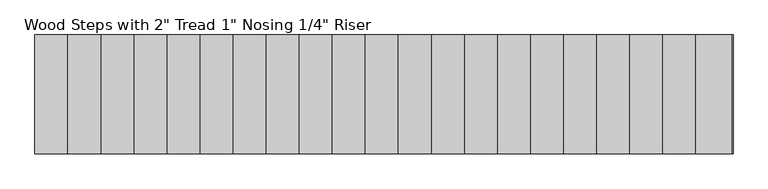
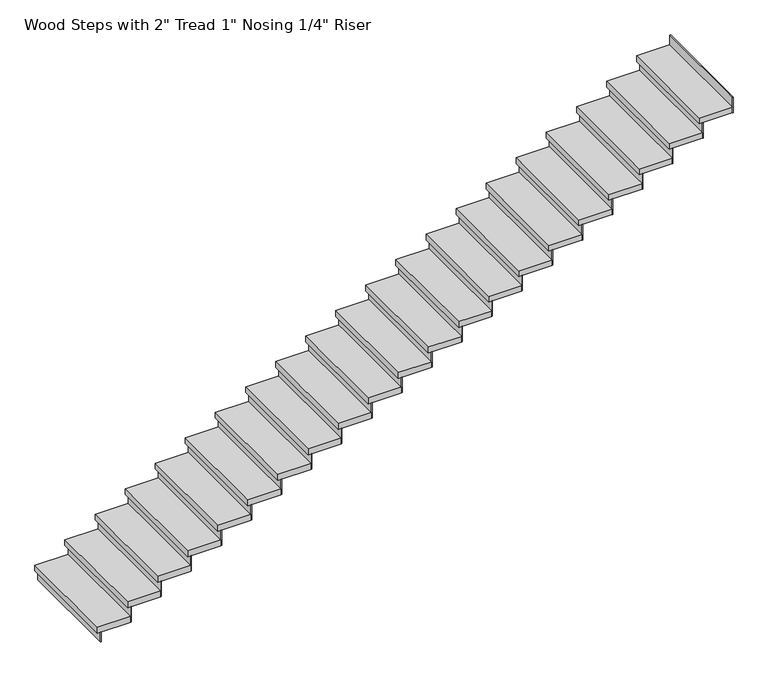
"""IFC4 building model written with IfcOpenShell, lengths in millimetres: stair flight geometry."""

from ifc_helpers import new_model, si_unit, frame, origin, origin_with_axes, place, context, project, spatial, polyline, outline, extrude, source, transform, mapped, element, save


def stair_flight_8cc66eea(model_context):
    return source(origin(), model_context, "Body", "SweptSolid", [
        extrude(outline(polyline([(291.1854393, 31644.2177722), (284.8354393, 31644.2177722), (284.8354393, 32558.6177722), (291.1854393, 32558.6177722), (291.1854393, 31644.2177722)])), origin_with_axes(), (0.0, 0.0, 1.0), 87.7454545),
        extrude(outline(polyline([(538.8354393, 32558.6177722), (538.8354393, 31644.2177722), (259.4354393, 31644.2177722), (259.4354393, 32558.6177722), (538.8354393, 32558.6177722)])), frame((0.0, 0.0, 87.7454545), z_axis=(0.0, 0.0, 1.0), x_axis=(1.0, 0.0, 0.0)), (0.0, 0.0, 1.0), 50.8),
        extrude(outline(polyline([(545.1854393, 31644.2177722), (538.8354393, 31644.2177722), (538.8354393, 32558.6177722), (545.1854393, 32558.6177722), (545.1854393, 31644.2177722)])), frame((0.0, 0.0, 87.7454545), z_axis=(0.0, 0.0, 1.0), x_axis=(1.0, 0.0, 0.0)), (0.0, 0.0, 1.0), 138.5454545),
        extrude(outline(polyline([(792.8354393, 32558.6177722), (792.8354393, 31644.2177722), (513.4354393, 31644.2177722), (513.4354393, 32558.6177722), (792.8354393, 32558.6177722)])), frame((0.0, 0.0, 226.2909091), z_axis=(0.0, 0.0, 1.0), x_axis=(1.0, 0.0, 0.0)), (0.0, 0.0, 1.0), 50.8),
        extrude(outline(polyline([(799.1854393, 31644.2177722), (792.8354393, 31644.2177722), (792.8354393, 32558.6177722), (799.1854393, 32558.6177722), (799.1854393, 31644.2177722)])), frame((0.0, 0.0, 226.2909091), z_axis=(0.0, 0.0, 1.0), x_axis=(1.0, 0.0, 0.0)), (0.0, 0.0, 1.0), 138.5454545),
        extrude(outline(polyline([(1046.8354393, 32558.6177722), (1046.8354393, 31644.2177722), (767.4354393, 31644.2177722), (767.4354393, 32558.6177722), (1046.8354393, 32558.6177722)])), frame((0.0, 0.0, 364.8363636), z_axis=(0.0, 0.0, 1.0), x_axis=(1.0, 0.0, 0.0)), (0.0, 0.0, 1.0), 50.8),
        extrude(outline(polyline([(1053.1854393, 31644.2177722), (1046.8354393, 31644.2177722), (1046.8354393, 32558.6177722), (1053.1854393, 32558.6177722), (1053.1854393, 31644.2177722)])), frame((0.0, 0.0, 364.8363636), z_axis=(0.0, 0.0, 1.0), x_axis=(1.0, 0.0, 0.0)), (0.0, 0.0, 1.0), 138.5454545),
        extrude(outline(polyline([(1300.8354393, 32558.6177722), (1300.8354393, 31644.2177722), (1021.4354393, 31644.2177722), (1021.4354393, 32558.6177722), (1300.8354393, 32558.6177722)])), frame((0.0, 0.0, 503.3818182), z_axis=(0.0, 0.0, 1.0), x_axis=(1.0, 0.0, 0.0)), (0.0, 0.0, 1.0), 50.8),
        extrude(outline(polyline([(1307.1854393, 31644.2177722), (1300.8354393, 31644.2177722), (1300.8354393, 32558.6177722), (1307.1854393, 32558.6177722), (1307.1854393, 31644.2177722)])), frame((0.0, 0.0, 503.3818182), z_axis=(0.0, 0.0, 1.0), x_axis=(1.0, 0.0, 0.0)), (0.0, 0.0, 1.0), 138.5454545),
        extrude(outline(polyline([(1554.8354393, 32558.6177722), (1554.8354393, 31644.2177722), (1275.4354393, 31644.2177722), (1275.4354393, 32558.6177722), (1554.8354393, 32558.6177722)])), frame((0.0, 0.0, 641.9272727), z_axis=(0.0, 0.0, 1.0), x_axis=(1.0, 0.0, 0.0)), (0.0, 0.0, 1.0), 50.8),
        extrude(outline(polyline([(1561.1854393, 31644.2177722), (1554.8354393, 31644.2177722), (1554.8354393, 32558.6177722), (1561.1854393, 32558.6177722), (1561.1854393, 31644.2177722)])), frame((0.0, 0.0, 641.9272727), z_axis=(0.0, 0.0, 1.0), x_axis=(1.0, 0.0, 0.0)), (0.0, 0.0, 1.0), 138.5454545),
        extrude(outline(polyline([(1808.8354393, 32558.6177722), (1808.8354393, 31644.2177722), (1529.4354393, 31644.2177722), (1529.4354393, 32558.6177722), (1808.8354393, 32558.6177722)])), frame((0.0, 0.0, 780.4727273), z_axis=(0.0, 0.0, 1.0), x_axis=(1.0, 0.0, 0.0)), (0.0, 0.0, 1.0), 50.8),
        extrude(outline(polyline([(1815.1854393, 31644.2177722), (1808.8354393, 31644.2177722), (1808.8354393, 32558.6177722), (1815.1854393, 32558.6177722), (1815.1854393, 31644.2177722)])), frame((0.0, 0.0, 780.4727273), z_axis=(0.0, 0.0, 1.0), x_axis=(1.0, 0.0, 0.0)), (0.0, 0.0, 1.0), 138.5454545),
        extrude(outline(polyline([(2062.8354393, 32558.6177722), (2062.8354393, 31644.2177722), (1783.4354393, 31644.2177722), (1783.4354393, 32558.6177722), (2062.8354393, 32558.6177722)])), frame((0.0, 0.0, 919.0181818), z_axis=(0.0, 0.0, 1.0), x_axis=(1.0, 0.0, 0.0)), (0.0, 0.0, 1.0), 50.8),
        extrude(outline(polyline([(2069.1854393, 31644.2177722), (2062.8354393, 31644.2177722), (2062.8354393, 32558.6177722), (2069.1854393, 32558.6177722), (2069.1854393, 31644.2177722)])), frame((0.0, 0.0, 919.0181818), z_axis=(0.0, 0.0, 1.0), x_axis=(1.0, 0.0, 0.0)), (0.0, 0.0, 1.0), 138.5454545),
        extrude(outline(polyline([(2316.8354393, 32558.6177722), (2316.8354393, 31644.2177722), (2037.4354393, 31644.2177722), (2037.4354393, 32558.6177722), (2316.8354393, 32558.6177722)])), frame((0.0, 0.0, 1057.5636364), z_axis=(0.0, 0.0, 1.0), x_axis=(1.0, 0.0, 0.0)), (0.0, 0.0, 1.0), 50.8),
        extrude(outline(polyline([(2323.1854393, 31644.2177722), (2316.8354393, 31644.2177722), (2316.8354393, 32558.6177722), (2323.1854393, 32558.6177722), (2323.1854393, 31644.2177722)])), frame((0.0, 0.0, 1057.5636364), z_axis=(0.0, 0.0, 1.0), x_axis=(1.0, 0.0, 0.0)), (0.0, 0.0, 1.0), 138.5454545),
        extrude(outline(polyline([(2570.8354393, 32558.6177722), (2570.8354393, 31644.2177722), (2291.4354393, 31644.2177722), (2291.4354393, 32558.6177722), (2570.8354393, 32558.6177722)])), frame((0.0, 0.0, 1196.1090909), z_axis=(0.0, 0.0, 1.0), x_axis=(1.0, 0.0, 0.0)), (0.0, 0.0, 1.0), 50.8),
        extrude(outline(polyline([(2577.1854393, 31644.2177722), (2570.8354393, 31644.2177722), (2570.8354393, 32558.6177722), (2577.1854393, 32558.6177722), (2577.1854393, 31644.2177722)])), frame((0.0, 0.0, 1196.1090909), z_axis=(0.0, 0.0, 1.0), x_axis=(1.0, 0.0, 0.0)), (0.0, 0.0, 1.0), 138.5454545),
        extrude(outline(polyline([(2824.8354393, 32558.6177722), (2824.8354393, 31644.2177722), (2545.4354393, 31644.2177722), (2545.4354393, 32558.6177722), (2824.8354393, 32558.6177722)])), frame((0.0, 0.0, 1334.6545455), z_axis=(0.0, 0.0, 1.0), x_axis=(1.0, 0.0, 0.0)), (0.0, 0.0, 1.0), 50.8),
        extrude(outline(polyline([(2831.1854393, 31644.2177722), (2824.8354393, 31644.2177722), (2824.8354393, 32558.6177722), (2831.1854393, 32558.6177722), (2831.1854393, 31644.2177722)])), frame((0.0, 0.0, 1334.6545455), z_axis=(0.0, 0.0, 1.0), x_axis=(1.0, 0.0, 0.0)), (0.0, 0.0, 1.0), 138.5454545),
        extrude(outline(polyline([(3078.8354393, 32558.6177722), (3078.8354393, 31644.2177722), (2799.4354393, 31644.2177722), (2799.4354393, 32558.6177722), (3078.8354393, 32558.6177722)])), frame((0.0, 0.0, 1473.2), z_axis=(0.0, 0.0, 1.0), x_axis=(1.0, 0.0, 0.0)), (0.0, 0.0, 1.0), 50.8),
        extrude(outline(polyline([(3085.1854393, 31644.2177722), (3078.8354393, 31644.2177722), (3078.8354393, 32558.6177722), (3085.1854393, 32558.6177722), (3085.1854393, 31644.2177722)])), frame((0.0, 0.0, 1473.2), z_axis=(0.0, 0.0, 1.0), x_axis=(1.0, 0.0, 0.0)), (0.0, 0.0, 1.0), 138.5454545),
        extrude(outline(polyline([(3332.8354393, 32558.6177722), (3332.8354393, 31644.2177722), (3053.4354393, 31644.2177722), (3053.4354393, 32558.6177722), (3332.8354393, 32558.6177722)])), frame((0.0, 0.0, 1611.7454545), z_axis=(0.0, 0.0, 1.0), x_axis=(1.0, 0.0, 0.0)), (0.0, 0.0, 1.0), 50.8),
        extrude(outline(polyline([(3339.1854393, 31644.2177722), (3332.8354393, 31644.2177722), (3332.8354393, 32558.6177722), (3339.1854393, 32558.6177722), (3339.1854393, 31644.2177722)])), frame((0.0, 0.0, 1611.7454545), z_axis=(0.0, 0.0, 1.0), x_axis=(1.0, 0.0, 0.0)), (0.0, 0.0, 1.0), 138.5454545),
        extrude(outline(polyline([(3586.8354393, 32558.6177722), (3586.8354393, 31644.2177722), (3307.4354393, 31644.2177722), (3307.4354393, 32558.6177722), (3586.8354393, 32558.6177722)])), frame((0.0, 0.0, 1750.2909091), z_axis=(0.0, 0.0, 1.0), x_axis=(1.0, 0.0, 0.0)), (0.0, 0.0, 1.0), 50.8),
        extrude(outline(polyline([(3593.1854393, 31644.2177722), (3586.8354393, 31644.2177722), (3586.8354393, 32558.6177722), (3593.1854393, 32558.6177722), (3593.1854393, 31644.2177722)])), frame((0.0, 0.0, 1750.2909091), z_axis=(0.0, 0.0, 1.0), x_axis=(1.0, 0.0, 0.0)), (0.0, 0.0, 1.0), 138.5454545),
        extrude(outline(polyline([(3840.8354393, 32558.6177722), (3840.8354393, 31644.2177722), (3561.4354393, 31644.2177722), (3561.4354393, 32558.6177722), (3840.8354393, 32558.6177722)])), frame((0.0, 0.0, 1888.8363636), z_axis=(0.0, 0.0, 1.0), x_axis=(1.0, 0.0, 0.0)), (0.0, 0.0, 1.0), 50.8),
        extrude(outline(polyline([(3847.1854393, 31644.2177722), (3840.8354393, 31644.2177722), (3840.8354393, 32558.6177722), (3847.1854393, 32558.6177722), (3847.1854393, 31644.2177722)])), frame((0.0, 0.0, 1888.8363636), z_axis=(0.0, 0.0, 1.0), x_axis=(1.0, 0.0, 0.0)), (0.0, 0.0, 1.0), 138.5454545),
        extrude(outline(polyline([(4094.8354393, 32558.6177722), (4094.8354393, 31644.2177722), (3815.4354393, 31644.2177722), (3815.4354393, 32558.6177722), (4094.8354393, 32558.6177722)])), frame((0.0, 0.0, 2027.3818182), z_axis=(0.0, 0.0, 1.0), x_axis=(1.0, 0.0, 0.0)), (0.0, 0.0, 1.0), 50.8),
        extrude(outline(polyline([(4101.1854393, 31644.2177722), (4094.8354393, 31644.2177722), (4094.8354393, 32558.6177722), (4101.1854393, 32558.6177722), (4101.1854393, 31644.2177722)])), frame((0.0, 0.0, 2027.3818182), z_axis=(0.0, 0.0, 1.0), x_axis=(1.0, 0.0, 0.0)), (0.0, 0.0, 1.0), 138.5454545),
        extrude(outline(polyline([(4348.8354393, 32558.6177722), (4348.8354393, 31644.2177722), (4069.4354393, 31644.2177722), (4069.4354393, 32558.6177722), (4348.8354393, 32558.6177722)])), frame((0.0, 0.0, 2165.9272727), z_axis=(0.0, 0.0, 1.0), x_axis=(1.0, 0.0, 0.0)), (0.0, 0.0, 1.0), 50.8),
        extrude(outline(polyline([(4355.1854393, 31644.2177722), (4348.8354393, 31644.2177722), (4348.8354393, 32558.6177722), (4355.1854393, 32558.6177722), (4355.1854393, 31644.2177722)])), frame((0.0, 0.0, 2165.9272727), z_axis=(0.0, 0.0, 1.0), x_axis=(1.0, 0.0, 0.0)), (0.0, 0.0, 1.0), 138.5454545),
        extrude(outline(polyline([(4602.8354393, 32558.6177722), (4602.8354393, 31644.2177722), (4323.4354393, 31644.2177722), (4323.4354393, 32558.6177722), (4602.8354393, 32558.6177722)])), frame((0.0, 0.0, 2304.4727273), z_axis=(0.0, 0.0, 1.0), x_axis=(1.0, 0.0, 0.0)), (0.0, 0.0, 1.0), 50.8),
        extrude(outline(polyline([(4609.1854393, 31644.2177722), (4602.8354393, 31644.2177722), (4602.8354393, 32558.6177722), (4609.1854393, 32558.6177722), (4609.1854393, 31644.2177722)])), frame((0.0, 0.0, 2304.4727273), z_axis=(0.0, 0.0, 1.0), x_axis=(1.0, 0.0, 0.0)), (0.0, 0.0, 1.0), 138.5454545),
        extrude(outline(polyline([(4856.8354393, 32558.6177722), (4856.8354393, 31644.2177722), (4577.4354393, 31644.2177722), (4577.4354393, 32558.6177722), (4856.8354393, 32558.6177722)])), frame((0.0, 0.0, 2443.0181818), z_axis=(0.0, 0.0, 1.0), x_axis=(1.0, 0.0, 0.0)), (0.0, 0.0, 1.0), 50.8),
        extrude(outline(polyline([(4863.1854393, 31644.2177722), (4856.8354393, 31644.2177722), (4856.8354393, 32558.6177722), (4863.1854393, 32558.6177722), (4863.1854393, 31644.2177722)])), frame((0.0, 0.0, 2443.0181818), z_axis=(0.0, 0.0, 1.0), x_axis=(1.0, 0.0, 0.0)), (0.0, 0.0, 1.0), 138.5454545),
        extrude(outline(polyline([(5110.8354393, 32558.6177722), (5110.8354393, 31644.2177722), (4831.4354393, 31644.2177722), (4831.4354393, 32558.6177722), (5110.8354393, 32558.6177722)])), frame((0.0, 0.0, 2581.5636364), z_axis=(0.0, 0.0, 1.0), x_axis=(1.0, 0.0, 0.0)), (0.0, 0.0, 1.0), 50.8),
        extrude(outline(polyline([(5117.1854393, 31644.2177722), (5110.8354393, 31644.2177722), (5110.8354393, 32558.6177722), (5117.1854393, 32558.6177722), (5117.1854393, 31644.2177722)])), frame((0.0, 0.0, 2581.5636364), z_axis=(0.0, 0.0, 1.0), x_axis=(1.0, 0.0, 0.0)), (0.0, 0.0, 1.0), 138.5454545),
        extrude(outline(polyline([(5364.8354393, 32558.6177722), (5364.8354393, 31644.2177722), (5085.4354393, 31644.2177722), (5085.4354393, 32558.6177722), (5364.8354393, 32558.6177722)])), frame((0.0, 0.0, 2720.1090909), z_axis=(0.0, 0.0, 1.0), x_axis=(1.0, 0.0, 0.0)), (0.0, 0.0, 1.0), 50.8),
        extrude(outline(polyline([(5371.1854393, 31644.2177722), (5364.8354393, 31644.2177722), (5364.8354393, 32558.6177722), (5371.1854393, 32558.6177722), (5371.1854393, 31644.2177722)])), frame((0.0, 0.0, 2720.1090909), z_axis=(0.0, 0.0, 1.0), x_axis=(1.0, 0.0, 0.0)), (0.0, 0.0, 1.0), 138.5454545),
        extrude(outline(polyline([(5625.1854393, 31644.2177722), (5618.8354393, 31644.2177722), (5618.8354393, 32558.6177722), (5625.1854393, 32558.6177722), (5625.1854393, 31644.2177722)])), frame((0.0, 0.0, 2858.6545455), z_axis=(0.0, 0.0, 1.0), x_axis=(1.0, 0.0, 0.0)), (0.0, 0.0, 1.0), 138.5454545),
        extrude(outline(polyline([(5618.8354393, 32558.6177722), (5618.8354393, 31644.2177722), (5339.4354393, 31644.2177722), (5339.4354393, 32558.6177722), (5618.8354393, 32558.6177722)])), frame((0.0, 0.0, 2858.6545455), z_axis=(0.0, 0.0, 1.0), x_axis=(1.0, 0.0, 0.0)), (0.0, 0.0, 1.0), 50.8),
    ])


if __name__ == "__main__":
    model = new_model("IFC4")
    model_context = context("Model", 3, world=origin())
    ifc_project = project(units=[si_unit("LENGTHUNIT", "METRE", prefix="MILLI")], contexts=[model_context])
    site = spatial("IfcSite", under=ifc_project)
    building = spatial("IfcBuilding", under=site)
    placement = place(None, origin())
    stair_flight_shape = stair_flight_8cc66eea(model_context)
    element("IfcStairFlight", 1, ObjectType="Wood Steps with 2\" Tread 1\" Nosing 1/4\" Riser", at=placement, inside=building, context=model_context, shape_type="MappedRepresentation", body=[
        mapped(stair_flight_shape, transform((0.0, 0.0, 0.0), x_axis=(1.0, 0.0, 0.0), y_axis=(0.0, 1.0, 0.0), z_axis=(0.0, 0.0, 1.0))),
    ])
    save(model, "model.ifc")
